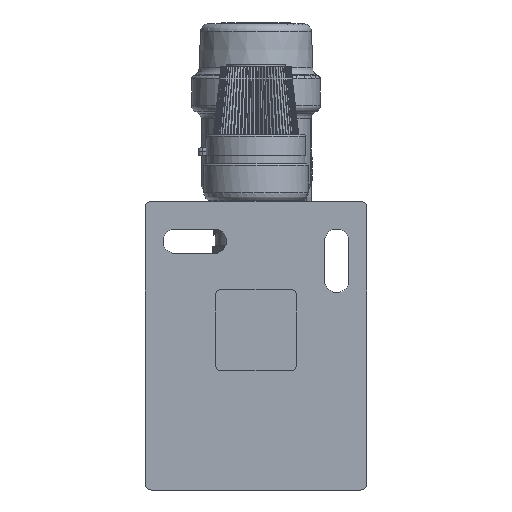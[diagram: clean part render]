
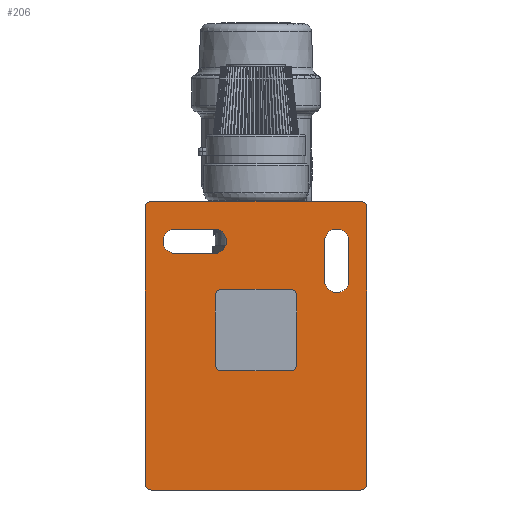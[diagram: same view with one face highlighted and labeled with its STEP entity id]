
A CAD part, front view. The second image highlights one B-rep face of the part: STEP entity #206.
In plain terms, the highlighted planar face has unit normal (0, -1, 0).
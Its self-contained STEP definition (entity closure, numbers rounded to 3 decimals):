
#206=ADVANCED_FACE('',(#2813,#2815,#2817,#2819),#2821,.F.);
#2813=FACE_BOUND('',#2814,.T.);
#2814=EDGE_LOOP('',(#12149,#12150,#12151,#12152,#12153,#12154,#12155,#12156));
#2815=FACE_BOUND('',#2816,.T.);
#2816=EDGE_LOOP('',(#12157,#12158,#12159,#12160,#12161,#12162,#12163,#12164));
#2817=FACE_BOUND('',#2818,.T.);
#2818=EDGE_LOOP('',(#12165,#12166,#12167,#12168));
#2819=FACE_BOUND('',#2820,.T.);
#2820=EDGE_LOOP('',(#12169,#12170,#12171,#12172));
#2821=PLANE('',#2822);
#2822=AXIS2_PLACEMENT_3D('',#2823,#2824,#2825);
#2823=CARTESIAN_POINT('',(0.,-5.,-4.75));
#2824=DIRECTION('',(0.,1.,0.));
#2825=DIRECTION('',(-1.,0.,0.));
#12149=ORIENTED_EDGE('',*,*,#20810,.F.);
#12150=ORIENTED_EDGE('',*,*,#20824,.F.);
#12151=ORIENTED_EDGE('',*,*,#20822,.F.);
#12152=ORIENTED_EDGE('',*,*,#20820,.F.);
#12153=ORIENTED_EDGE('',*,*,#20818,.F.);
#12154=ORIENTED_EDGE('',*,*,#20816,.F.);
#12155=ORIENTED_EDGE('',*,*,#20814,.F.);
#12156=ORIENTED_EDGE('',*,*,#20812,.F.);
#12157=ORIENTED_EDGE('',*,*,#20865,.F.);
#12158=ORIENTED_EDGE('',*,*,#20866,.T.);
#12159=ORIENTED_EDGE('',*,*,#20867,.F.);
#12160=ORIENTED_EDGE('',*,*,#20868,.T.);
#12161=ORIENTED_EDGE('',*,*,#20869,.F.);
#12162=ORIENTED_EDGE('',*,*,#20870,.T.);
#12163=ORIENTED_EDGE('',*,*,#20871,.F.);
#12164=ORIENTED_EDGE('',*,*,#20872,.T.);
#12165=ORIENTED_EDGE('',*,*,#20834,.T.);
#12166=ORIENTED_EDGE('',*,*,#20841,.T.);
#12167=ORIENTED_EDGE('',*,*,#20839,.T.);
#12168=ORIENTED_EDGE('',*,*,#20837,.T.);
#12169=ORIENTED_EDGE('',*,*,#20826,.T.);
#12170=ORIENTED_EDGE('',*,*,#20833,.T.);
#12171=ORIENTED_EDGE('',*,*,#20831,.T.);
#12172=ORIENTED_EDGE('',*,*,#20829,.T.);
#20810=EDGE_CURVE('',#24854,#24856,#24857,.F.);
#20812=EDGE_CURVE('',#24856,#24859,#24860,.T.);
#20814=EDGE_CURVE('',#24859,#24862,#24863,.F.);
#20816=EDGE_CURVE('',#24862,#24865,#24866,.T.);
#20818=EDGE_CURVE('',#24865,#24868,#24869,.F.);
#20820=EDGE_CURVE('',#24868,#24871,#24872,.T.);
#20822=EDGE_CURVE('',#24871,#24874,#24875,.F.);
#20824=EDGE_CURVE('',#24874,#24854,#24877,.T.);
#20826=EDGE_CURVE('',#24879,#24880,#24881,.F.);
#20829=EDGE_CURVE('',#24884,#24879,#24885,.T.);
#20831=EDGE_CURVE('',#24887,#24884,#24888,.F.);
#20833=EDGE_CURVE('',#24880,#24887,#24890,.T.);
#20834=EDGE_CURVE('',#24891,#24892,#24893,.T.);
#20837=EDGE_CURVE('',#24896,#24891,#24897,.F.);
#20839=EDGE_CURVE('',#24899,#24896,#24900,.T.);
#20841=EDGE_CURVE('',#24892,#24899,#24902,.F.);
#20865=EDGE_CURVE('',#24943,#24944,#24945,.F.);
#20866=EDGE_CURVE('',#24943,#24946,#24947,.T.);
#20867=EDGE_CURVE('',#24948,#24946,#24949,.F.);
#20868=EDGE_CURVE('',#24948,#24950,#24951,.T.);
#20869=EDGE_CURVE('',#24952,#24950,#24953,.F.);
#20870=EDGE_CURVE('',#24952,#24954,#24955,.T.);
#20871=EDGE_CURVE('',#24956,#24954,#24957,.F.);
#20872=EDGE_CURVE('',#24956,#24944,#24958,.T.);
#24854=VERTEX_POINT('',#33303);
#24856=VERTEX_POINT('',#33307);
#24857=CIRCLE('',#33308,2.);
#24859=VERTEX_POINT('',#33315);
#24860=LINE('',#33316,#33317);
#24862=VERTEX_POINT('',#33322);
#24863=CIRCLE('',#33323,2.);
#24865=VERTEX_POINT('',#33330);
#24866=LINE('',#33331,#33332);
#24868=VERTEX_POINT('',#33337);
#24869=CIRCLE('',#33338,2.);
#24871=VERTEX_POINT('',#33345);
#24872=LINE('',#33346,#33347);
#24874=VERTEX_POINT('',#33352);
#24875=CIRCLE('',#33353,2.);
#24877=LINE('',#33360,#33361);
#24879=VERTEX_POINT('',#33367);
#24880=VERTEX_POINT('',#33368);
#24881=CIRCLE('',#33369,3.75);
#24884=VERTEX_POINT('',#33379);
#24885=LINE('',#33380,#33381);
#24887=VERTEX_POINT('',#33386);
#24888=CIRCLE('',#33387,3.75);
#24890=LINE('',#33394,#33395);
#24891=VERTEX_POINT('',#33397);
#24892=VERTEX_POINT('',#33398);
#24893=LINE('',#33399,#33400);
#24896=VERTEX_POINT('',#33408);
#24897=CIRCLE('',#33409,3.75);
#24899=VERTEX_POINT('',#33416);
#24900=LINE('',#33417,#33418);
#24902=CIRCLE('',#33423,3.75);
#24943=VERTEX_POINT('',#33532);
#24944=VERTEX_POINT('',#33533);
#24945=CIRCLE('',#33534,2.);
#24946=VERTEX_POINT('',#33538);
#24947=LINE('',#33539,#33540);
#24948=VERTEX_POINT('',#33542);
#24949=CIRCLE('',#33543,2.);
#24950=VERTEX_POINT('',#33547);
#24951=LINE('',#33548,#33549);
#24952=VERTEX_POINT('',#33551);
#24953=CIRCLE('',#33552,2.);
#24954=VERTEX_POINT('',#33556);
#24955=LINE('',#33557,#33558);
#24956=VERTEX_POINT('',#33560);
#24957=CIRCLE('',#33561,2.);
#24958=LINE('',#33565,#33566);
#33303=CARTESIAN_POINT('',(-34.,-5.,37.5));
#33307=CARTESIAN_POINT('',(-32.,-5.,39.5));
#33308=AXIS2_PLACEMENT_3D('',#33309,#33310,#33311);
#33309=CARTESIAN_POINT('',(-32.,-5.,37.5));
#33310=DIRECTION('',(0.,-1.,0.));
#33311=DIRECTION('',(0.,0.,1.));
#33315=CARTESIAN_POINT('',(32.,-5.,39.5));
#33316=CARTESIAN_POINT('',(-32.,-5.,39.5));
#33317=VECTOR('',#33318,1.);
#33318=DIRECTION('',(1.,0.,0.));
#33322=CARTESIAN_POINT('',(34.,-5.,37.5));
#33323=AXIS2_PLACEMENT_3D('',#33324,#33325,#33326);
#33324=CARTESIAN_POINT('',(32.,-5.,37.5));
#33325=DIRECTION('',(0.,-1.,0.));
#33326=DIRECTION('',(1.,0.,0.));
#33330=CARTESIAN_POINT('',(34.,-5.,-47.));
#33331=CARTESIAN_POINT('',(34.,-5.,37.5));
#33332=VECTOR('',#33333,1.);
#33333=DIRECTION('',(0.,0.,-1.));
#33337=CARTESIAN_POINT('',(32.,-5.,-49.));
#33338=AXIS2_PLACEMENT_3D('',#33339,#33340,#33341);
#33339=CARTESIAN_POINT('',(32.,-5.,-47.));
#33340=DIRECTION('',(0.,-1.,0.));
#33341=DIRECTION('',(0.,0.,-1.));
#33345=CARTESIAN_POINT('',(-32.,-5.,-49.));
#33346=CARTESIAN_POINT('',(32.,-5.,-49.));
#33347=VECTOR('',#33348,1.);
#33348=DIRECTION('',(-1.,0.,0.));
#33352=CARTESIAN_POINT('',(-34.,-5.,-47.));
#33353=AXIS2_PLACEMENT_3D('',#33354,#33355,#33356);
#33354=CARTESIAN_POINT('',(-32.,-5.,-47.));
#33355=DIRECTION('',(0.,-1.,0.));
#33356=DIRECTION('',(-1.,0.,0.));
#33360=CARTESIAN_POINT('',(-34.,-5.,-47.));
#33361=VECTOR('',#33362,1.);
#33362=DIRECTION('',(0.,0.,1.));
#33367=CARTESIAN_POINT('',(-12.75,-5.,31.));
#33368=CARTESIAN_POINT('',(-12.75,-5.,23.5));
#33369=AXIS2_PLACEMENT_3D('',#33370,#33371,#33372);
#33370=CARTESIAN_POINT('',(-12.75,-5.,27.25));
#33371=DIRECTION('',(0.,-1.,0.));
#33372=DIRECTION('',(0.,0.,-1.));
#33379=CARTESIAN_POINT('',(-24.75,-5.,31.));
#33380=CARTESIAN_POINT('',(-24.75,-5.,31.));
#33381=VECTOR('',#33382,1.);
#33382=DIRECTION('',(1.,0.,0.));
#33386=CARTESIAN_POINT('',(-24.75,-5.,23.5));
#33387=AXIS2_PLACEMENT_3D('',#33388,#33389,#33390);
#33388=CARTESIAN_POINT('',(-24.75,-5.,27.25));
#33389=DIRECTION('',(0.,-1.,0.));
#33390=DIRECTION('',(0.,0.,1.));
#33394=CARTESIAN_POINT('',(-12.75,-5.,23.5));
#33395=VECTOR('',#33396,1.);
#33396=DIRECTION('',(-1.,0.,0.));
#33397=CARTESIAN_POINT('',(28.5,-5.,27.25));
#33398=CARTESIAN_POINT('',(28.5,-5.,15.25));
#33399=CARTESIAN_POINT('',(28.5,-5.,27.25));
#33400=VECTOR('',#33401,1.);
#33401=DIRECTION('',(0.,0.,-1.));
#33408=CARTESIAN_POINT('',(21.,-5.,27.25));
#33409=AXIS2_PLACEMENT_3D('',#33410,#33411,#33412);
#33410=CARTESIAN_POINT('',(24.75,-5.,27.25));
#33411=DIRECTION('',(0.,-1.,0.));
#33412=DIRECTION('',(1.,0.,0.));
#33416=CARTESIAN_POINT('',(21.,-5.,15.25));
#33417=CARTESIAN_POINT('',(21.,-5.,15.25));
#33418=VECTOR('',#33419,1.);
#33419=DIRECTION('',(0.,0.,1.));
#33423=AXIS2_PLACEMENT_3D('',#33424,#33425,#33426);
#33424=CARTESIAN_POINT('',(24.75,-5.,15.25));
#33425=DIRECTION('',(0.,-1.,0.));
#33426=DIRECTION('',(-1.,0.,0.));
#33532=CARTESIAN_POINT('',(10.5,-5.,-12.5));
#33533=CARTESIAN_POINT('',(12.5,-5.,-10.5));
#33534=AXIS2_PLACEMENT_3D('',#33535,#33536,#33537);
#33535=CARTESIAN_POINT('',(10.5,-5.,-10.5));
#33536=DIRECTION('',(0.,1.,0.));
#33537=DIRECTION('',(1.,0.,0.));
#33538=CARTESIAN_POINT('',(-10.5,-5.,-12.5));
#33539=CARTESIAN_POINT('',(10.5,-5.,-12.5));
#33540=VECTOR('',#33541,1.);
#33541=DIRECTION('',(-1.,0.,0.));
#33542=CARTESIAN_POINT('',(-12.5,-5.,-10.5));
#33543=AXIS2_PLACEMENT_3D('',#33544,#33545,#33546);
#33544=CARTESIAN_POINT('',(-10.5,-5.,-10.5));
#33545=DIRECTION('',(0.,1.,0.));
#33546=DIRECTION('',(0.,0.,-1.));
#33547=CARTESIAN_POINT('',(-12.5,-5.,10.5));
#33548=CARTESIAN_POINT('',(-12.5,-5.,-10.5));
#33549=VECTOR('',#33550,1.);
#33550=DIRECTION('',(0.,0.,1.));
#33551=CARTESIAN_POINT('',(-10.5,-5.,12.5));
#33552=AXIS2_PLACEMENT_3D('',#33553,#33554,#33555);
#33553=CARTESIAN_POINT('',(-10.5,-5.,10.5));
#33554=DIRECTION('',(0.,1.,0.));
#33555=DIRECTION('',(-1.,0.,0.));
#33556=CARTESIAN_POINT('',(10.5,-5.,12.5));
#33557=CARTESIAN_POINT('',(-10.5,-5.,12.5));
#33558=VECTOR('',#33559,1.);
#33559=DIRECTION('',(1.,0.,0.));
#33560=CARTESIAN_POINT('',(12.5,-5.,10.5));
#33561=AXIS2_PLACEMENT_3D('',#33562,#33563,#33564);
#33562=CARTESIAN_POINT('',(10.5,-5.,10.5));
#33563=DIRECTION('',(0.,1.,0.));
#33564=DIRECTION('',(0.,0.,1.));
#33565=CARTESIAN_POINT('',(12.5,-5.,10.5));
#33566=VECTOR('',#33567,1.);
#33567=DIRECTION('',(0.,0.,-1.));
